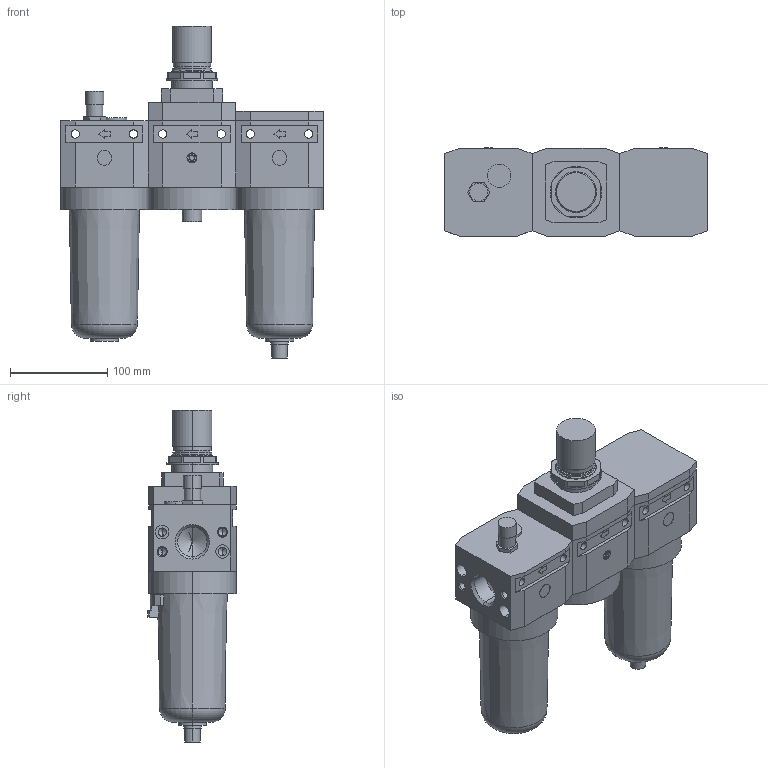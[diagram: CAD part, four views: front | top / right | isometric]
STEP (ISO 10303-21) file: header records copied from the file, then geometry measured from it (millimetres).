
FILE_DESCRIPTION((''),'2;1');
FILE_NAME('I:\DOC-EDP\Lib-3d\FRL\17407B_.stp','2003-06-16T15:02:15',('maffial1'),(''),'Autodesk Inventor 7','Autodesk Inventor 7','');
FILE_SCHEMA(('AUTOMOTIVE_DESIGN { 1 0 10303 214 1 1 1 1 }'));
Length unit declared in the file: millimetre
Products named in the file (7): 17407B_; 17401B_; 17403B; 17402B_; 17402B_(1); RS_1702_12; RK_1701_020
Assembly tree (6 placements, depth 3):
  17407B_
    17401B_
    17403B
    17402B_
      17402B_(1)
      RS_1702_12
      RK_1701_020
Bounding box: 270.1 x 90.92 x 341.2 mm (x, y, z)
Volume: 3259635 mm3; surface area: 271433.2 mm2
Topology: 5 solids, 5 shells, 503 faces, 1221 edges, 747 vertices
Faces by surface type: plane 192, bspline 137, cylinder 100, cone 66, torus 8
Entity records: 15710 total; most frequent: CARTESIAN_POINT 4159, ORIENTED_EDGE 2346, DIRECTION 2324, EDGE_CURVE 1173, AXIS2_PLACEMENT_3D 784, VECTOR 756, LINE 756, VERTEX_POINT 747
